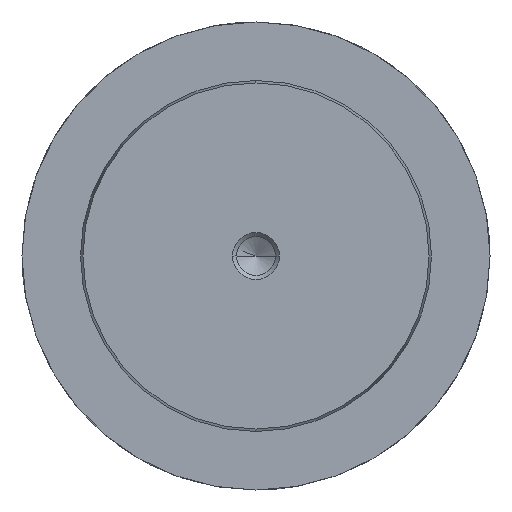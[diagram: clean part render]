
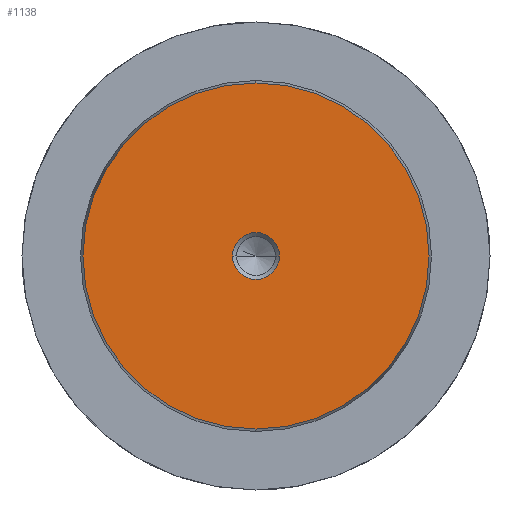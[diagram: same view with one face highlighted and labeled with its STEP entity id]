
A CAD part, left-side view. The second image highlights one B-rep face of the part: STEP entity #1138.
In plain terms, the highlighted planar face has unit normal (-1, 0, 0).
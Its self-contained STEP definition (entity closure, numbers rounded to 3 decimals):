
#1052=CARTESIAN_POINT('Vertex',(0.,0.,-29.578)) ;
#1055=CARTESIAN_POINT('Axis2P3D Location',(0.,0.,0.)) ;
#1059=CARTESIAN_POINT('Vertex',(0.,29.578,0.)) ;
#1062=CARTESIAN_POINT('Axis2P3D Location',(0.,0.,0.)) ;
#1066=CARTESIAN_POINT('Vertex',(0.,0.,29.578)) ;
#1088=CARTESIAN_POINT('Axis2P3D Location',(0.,0.,0.)) ;
#1092=CARTESIAN_POINT('Vertex',(0.,-29.578,0.)) ;
#1095=CARTESIAN_POINT('Axis2P3D Location',(0.,0.,0.)) ;
#1109=CARTESIAN_POINT('Axis2P3D Location',(0.,0.,0.)) ;
#1120=CARTESIAN_POINT('Axis2P3D Location',(0.,0.,0.)) ;
#1124=CARTESIAN_POINT('Vertex',(0.,4.,0.)) ;
#1126=CARTESIAN_POINT('Vertex',(0.,-4.,0.)) ;
#1129=CARTESIAN_POINT('Axis2P3D Location',(0.,0.,0.)) ;
#1056=DIRECTION('Axis2P3D Direction',(1.,-0.,0.)) ;
#1063=DIRECTION('Axis2P3D Direction',(1.,-0.,0.)) ;
#1089=DIRECTION('Axis2P3D Direction',(1.,0.,-0.)) ;
#1096=DIRECTION('Axis2P3D Direction',(1.,0.,-0.)) ;
#1110=DIRECTION('Axis2P3D Direction',(1.,0.,-0.)) ;
#1111=DIRECTION('Axis2P3D XDirection',(-0.,0.,-1.)) ;
#1121=DIRECTION('Axis2P3D Direction',(1.,0.,-0.)) ;
#1130=DIRECTION('Axis2P3D Direction',(1.,0.,-0.)) ;
#1057=AXIS2_PLACEMENT_3D('Circle Axis2P3D',#1055,#1056,$) ;
#1064=AXIS2_PLACEMENT_3D('Circle Axis2P3D',#1062,#1063,$) ;
#1090=AXIS2_PLACEMENT_3D('Circle Axis2P3D',#1088,#1089,$) ;
#1097=AXIS2_PLACEMENT_3D('Circle Axis2P3D',#1095,#1096,$) ;
#1112=AXIS2_PLACEMENT_3D('Plane Axis2P3D',#1109,#1110,#1111) ;
#1122=AXIS2_PLACEMENT_3D('Circle Axis2P3D',#1120,#1121,$) ;
#1131=AXIS2_PLACEMENT_3D('Circle Axis2P3D',#1129,#1130,$) ;
#1115=ORIENTED_EDGE('',*,*,#1061,.F.) ;
#1116=ORIENTED_EDGE('',*,*,#1099,.F.) ;
#1117=ORIENTED_EDGE('',*,*,#1094,.F.) ;
#1118=ORIENTED_EDGE('',*,*,#1068,.F.) ;
#1135=ORIENTED_EDGE('',*,*,#1128,.T.) ;
#1136=ORIENTED_EDGE('',*,*,#1133,.T.) ;
#1137=FACE_BOUND('',#1134,.T.) ;
#1138=ADVANCED_FACE('719-60x315',(#1119,#1137),#1113,.F.) ;
#1058=CIRCLE('generated circle',#1057,29.578) ;
#1065=CIRCLE('generated circle',#1064,29.578) ;
#1091=CIRCLE('generated circle',#1090,29.578) ;
#1098=CIRCLE('generated circle',#1097,29.578) ;
#1123=CIRCLE('generated circle',#1122,4.) ;
#1132=CIRCLE('generated circle',#1131,4.) ;
#1061=EDGE_CURVE('',#1053,#1060,#1058,.T.) ;
#1068=EDGE_CURVE('',#1060,#1067,#1065,.T.) ;
#1094=EDGE_CURVE('',#1067,#1093,#1091,.T.) ;
#1099=EDGE_CURVE('',#1093,#1053,#1098,.T.) ;
#1128=EDGE_CURVE('',#1125,#1127,#1123,.T.) ;
#1133=EDGE_CURVE('',#1127,#1125,#1132,.T.) ;
#1114=EDGE_LOOP('',(#1115,#1116,#1117,#1118)) ;
#1134=EDGE_LOOP('',(#1135,#1136)) ;
#1119=FACE_OUTER_BOUND('',#1114,.T.) ;
#1113=PLANE('Plane',#1112) ;
#1053=VERTEX_POINT('',#1052) ;
#1060=VERTEX_POINT('',#1059) ;
#1067=VERTEX_POINT('',#1066) ;
#1093=VERTEX_POINT('',#1092) ;
#1125=VERTEX_POINT('',#1124) ;
#1127=VERTEX_POINT('',#1126) ;
